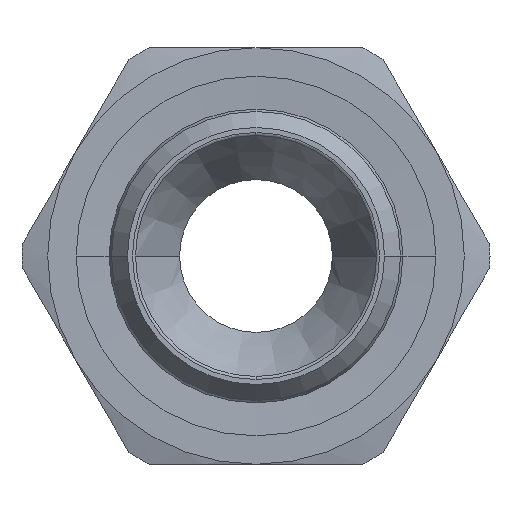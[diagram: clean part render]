
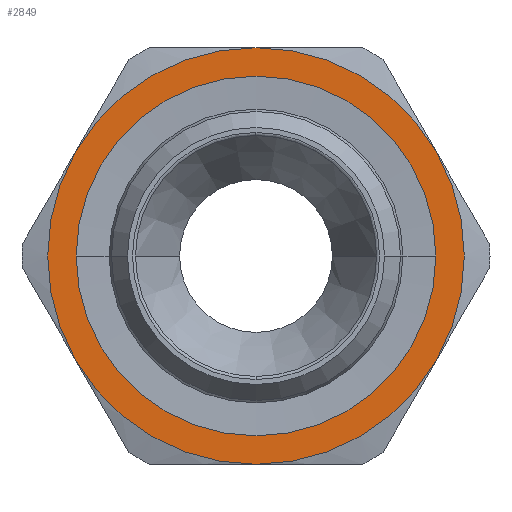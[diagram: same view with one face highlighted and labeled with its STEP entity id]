
A CAD part, left-side view. The second image highlights one B-rep face of the part: STEP entity #2849.
In plain terms, the highlighted planar face has unit normal (-1, 0, 0) as drawn and (0, 0, 1) by its records, which use the part's own axes.
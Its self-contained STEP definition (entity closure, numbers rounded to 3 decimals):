
#1176=CARTESIAN_POINT('',(0.,-12.95,3.5));
#1177=VERTEX_POINT('',#1176);
#1193=CARTESIAN_POINT('',(0.,12.95,3.5));
#1194=VERTEX_POINT('',#1193);
#1201=CARTESIAN_POINT('',(0.,0.,3.5));
#1202=DIRECTION('',(0.0,0.0,-1.0));
#1203=DIRECTION('',(0.0,-1.0,0.0));
#1204=AXIS2_PLACEMENT_3D('',#1201,#1202,#1203);
#1205=CIRCLE('',#1204,12.95);
#1206=EDGE_CURVE('',#1177,#1194,#1205,.T.);
#1663=CARTESIAN_POINT('',(0.,0.,3.5));
#1664=DIRECTION('',(0.0,0.0,-1.0));
#1665=DIRECTION('',(0.0,-1.0,0.0));
#1666=AXIS2_PLACEMENT_3D('',#1663,#1664,#1665);
#1667=CIRCLE('',#1666,12.95);
#1668=EDGE_CURVE('',#1194,#1177,#1667,.T.);
#2222=CARTESIAN_POINT('',(7.5,-12.99,3.5));
#2223=VERTEX_POINT('',#2222);
#2237=CARTESIAN_POINT('',(-7.5,-12.99,3.5));
#2238=VERTEX_POINT('',#2237);
#2239=CARTESIAN_POINT('',(0.,0.0,3.5));
#2240=DIRECTION('',(0.0,0.0,1.0));
#2241=DIRECTION('',(1.0,0.0,0.0));
#2242=AXIS2_PLACEMENT_3D('',#2239,#2240,#2241);
#2243=CIRCLE('',#2242,15.);
#2244=EDGE_CURVE('',#2238,#2223,#2243,.T.);
#2322=CARTESIAN_POINT('',(-15.,0.,3.5));
#2323=VERTEX_POINT('',#2322);
#2324=CARTESIAN_POINT('',(0.,0.0,3.5));
#2325=DIRECTION('',(0.0,0.0,1.0));
#2326=DIRECTION('',(1.0,0.0,0.0));
#2327=AXIS2_PLACEMENT_3D('',#2324,#2325,#2326);
#2328=CIRCLE('',#2327,15.);
#2329=EDGE_CURVE('',#2323,#2238,#2328,.T.);
#2406=CARTESIAN_POINT('',(-7.5,12.99,3.5));
#2407=VERTEX_POINT('',#2406);
#2408=CARTESIAN_POINT('',(0.,0.0,3.5));
#2409=DIRECTION('',(0.0,0.0,1.0));
#2410=DIRECTION('',(1.0,0.0,0.0));
#2411=AXIS2_PLACEMENT_3D('',#2408,#2409,#2410);
#2412=CIRCLE('',#2411,15.);
#2413=EDGE_CURVE('',#2407,#2323,#2412,.T.);
#2490=CARTESIAN_POINT('',(7.5,12.99,3.5));
#2491=VERTEX_POINT('',#2490);
#2492=CARTESIAN_POINT('',(0.,0.0,3.5));
#2493=DIRECTION('',(0.0,0.0,1.0));
#2494=DIRECTION('',(1.0,0.0,0.0));
#2495=AXIS2_PLACEMENT_3D('',#2492,#2493,#2494);
#2496=CIRCLE('',#2495,15.);
#2497=EDGE_CURVE('',#2491,#2407,#2496,.T.);
#2575=CARTESIAN_POINT('',(15.0,0.0,3.5));
#2576=VERTEX_POINT('',#2575);
#2577=CARTESIAN_POINT('',(0.,0.0,3.5));
#2578=DIRECTION('',(0.0,0.0,1.0));
#2579=DIRECTION('',(1.0,0.0,0.0));
#2580=AXIS2_PLACEMENT_3D('',#2577,#2578,#2579);
#2581=CIRCLE('',#2580,15.);
#2582=EDGE_CURVE('',#2576,#2491,#2581,.T.);
#2659=CARTESIAN_POINT('',(0.,0.0,3.5));
#2660=DIRECTION('',(0.0,0.0,1.0));
#2661=DIRECTION('',(1.0,0.0,0.0));
#2662=AXIS2_PLACEMENT_3D('',#2659,#2660,#2661);
#2663=CIRCLE('',#2662,15.);
#2664=EDGE_CURVE('',#2223,#2576,#2663,.T.);
#2832=CARTESIAN_POINT('',(0.0,0.,3.5));
#2833=DIRECTION('',(0.0,0.0,1.0));
#2834=DIRECTION('',(1.0,0.0,0.0));
#2835=AXIS2_PLACEMENT_3D('',#2832,#2833,#2834);
#2836=PLANE('',#2835);
#2837=ORIENTED_EDGE('',*,*,#2664,.T.);
#2838=ORIENTED_EDGE('',*,*,#2582,.T.);
#2839=ORIENTED_EDGE('',*,*,#2497,.T.);
#2840=ORIENTED_EDGE('',*,*,#2413,.T.);
#2841=ORIENTED_EDGE('',*,*,#2329,.T.);
#2842=ORIENTED_EDGE('',*,*,#2244,.T.);
#2843=EDGE_LOOP('',(#2837,#2838,#2839,#2840,#2841,#2842));
#2844=FACE_OUTER_BOUND('',#2843,.T.);
#2845=ORIENTED_EDGE('',*,*,#1206,.T.);
#2846=ORIENTED_EDGE('',*,*,#1668,.T.);
#2847=EDGE_LOOP('',(#2845,#2846));
#2848=FACE_BOUND('',#2847,.T.);
#2849=ADVANCED_FACE('',(#2844,#2848),#2836,.T.);
